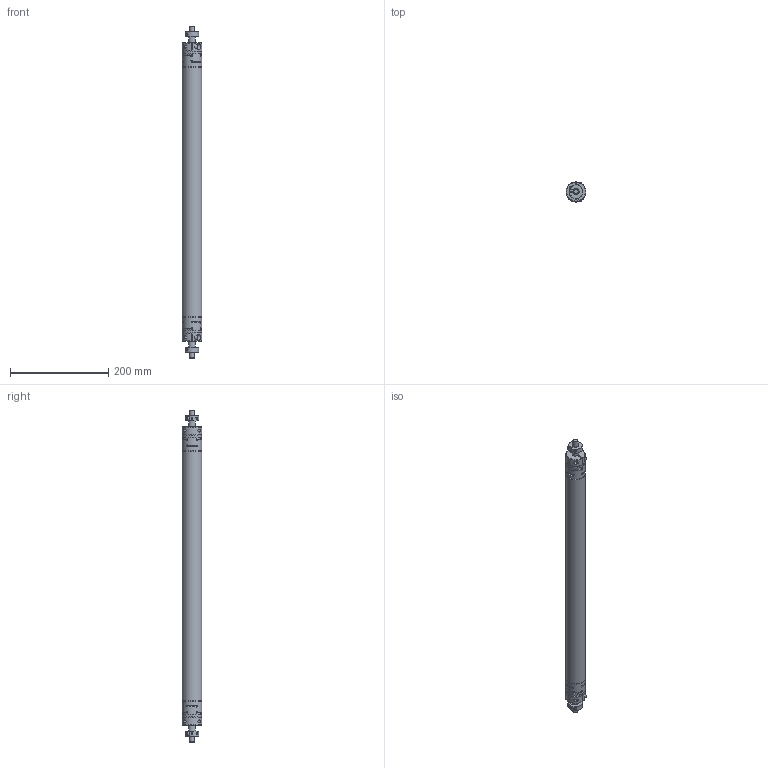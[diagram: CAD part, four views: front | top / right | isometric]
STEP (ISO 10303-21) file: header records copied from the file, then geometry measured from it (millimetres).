
FILE_DESCRIPTION(/* description */ ('Dummy'),/* implementation_level */ '2;1');
FILE_NAME(/* name */ 'D:\InventorWorkspace2019\CAD\_lokale konstruktionen\VerbWelleHLR070\0232.910-0700.stp',/* time_stamp */ '2020-04-14T16:13:10+02:00',/* author */ ('AR64535'),/* organization */ (''),/* preprocessor_version */ 'ST-DEVELOPER v17.2',/* originating_system */ 'Autodesk Inventor 2019',/* authorisation */ '');
FILE_SCHEMA (('AUTOMOTIVE_DESIGN { 1 0 10303 214 3 1 1 }'));
Length unit declared in the file: millimetre
Products named in the file (8): 0241910-XXXX_HLR070; 0241.910-XXXX; ROTEX GS19 ZR3_Klemmnabe D14; ROTEX GS19 ZR3_Rohr; 0232.007-02; 0231.029; 0231.012-01; 130-302319
Assembly tree (11 placements, depth 3):
  0241910-XXXX_HLR070
    0241.910-XXXX
      ROTEX GS19 ZR3_Klemmnabe D14  x2
      ROTEX GS19 ZR3_Rohr
    0232.007-02
      0231.029  x2
      0231.012-01  x2
      130-302319  x2
Bounding box: 40 x 40 x 676 mm (x, y, z)
Volume: 290458.8 mm3; surface area: 165987.7 mm2
Topology: 9 solids, 9 shells, 430 faces, 1260 edges, 858 vertices
Faces by surface type: cylinder 178, plane 156, cone 92, torus 4
Full cylindrical faces by diameter (mm): 3 x12, 4.134 x2, 5 x2, 5.3 x2, 6 x4, 6.6 x8, 8.5 x2, 10 x6, 14 x4, 18 x4, 22 x2, 34 x1, 39.4 x2, 40 x3
Entity records: 8244 total; most frequent: CARTESIAN_POINT 2097, ORIENTED_EDGE 1268, DIRECTION 1244, EDGE_CURVE 634, AXIS2_PLACEMENT_3D 516, VERTEX_POINT 432, CIRCLE 279, EDGE_LOOP 256
